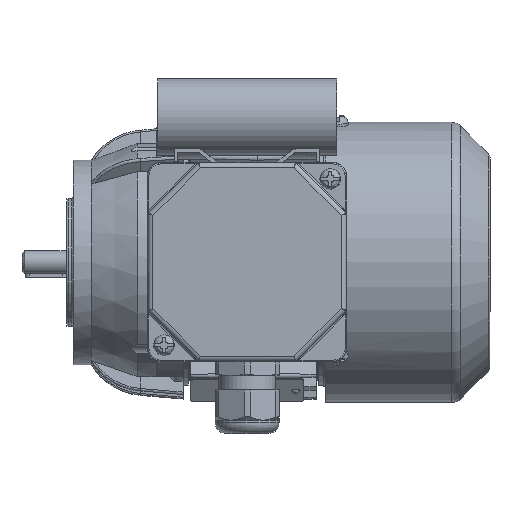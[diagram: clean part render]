
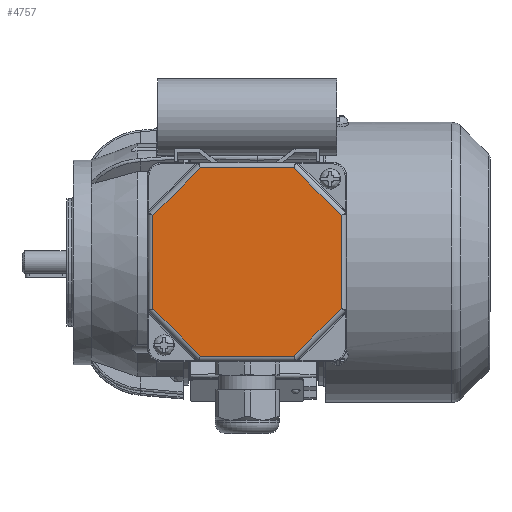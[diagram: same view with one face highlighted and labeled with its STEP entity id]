
A CAD part, top view. The second image highlights one B-rep face of the part: STEP entity #4757.
In plain terms, the highlighted planar face has unit normal (0, 0, 1).
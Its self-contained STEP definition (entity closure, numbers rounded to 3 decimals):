
#4757 = ADVANCED_FACE( '', ( #9658 ), #9659, .T. );
#9658 = FACE_OUTER_BOUND( '', #19650, .T. );
#9659 = PLANE( '', #19651 );
#19650 = EDGE_LOOP( '', ( #33543, #33544, #33545, #33546, #33547, #33548, #33549, #33550 ) );
#19651 = AXIS2_PLACEMENT_3D( '', #33551, #33552, #33553 );
#33543 = ORIENTED_EDGE( '', *, *, #39626, .T. );
#33544 = ORIENTED_EDGE( '', *, *, #37368, .T. );
#33545 = ORIENTED_EDGE( '', *, *, #39441, .T. );
#33546 = ORIENTED_EDGE( '', *, *, #39581, .T. );
#33547 = ORIENTED_EDGE( '', *, *, #41657, .T. );
#33548 = ORIENTED_EDGE( '', *, *, #39762, .T. );
#33549 = ORIENTED_EDGE( '', *, *, #41244, .T. );
#33550 = ORIENTED_EDGE( '', *, *, #41658, .T. );
#33551 = CARTESIAN_POINT( '', ( -39., 39., 12. ) );
#33552 = DIRECTION( '', ( 0., 0., 1. ) );
#33553 = DIRECTION( '', ( 1., 0., 0. ) );
#37368 = EDGE_CURVE( '', #44489, #44490, #44491, .T. );
#39441 = EDGE_CURVE( '', #44490, #47822, #47823, .F. );
#39581 = EDGE_CURVE( '', #47822, #46705, #48030, .T. );
#39626 = EDGE_CURVE( '', #43196, #44489, #48097, .F. );
#39762 = EDGE_CURVE( '', #48296, #45002, #48297, .T. );
#41244 = EDGE_CURVE( '', #45002, #47012, #50284, .F. );
#41657 = EDGE_CURVE( '', #46705, #48296, #50754, .F. );
#41658 = EDGE_CURVE( '', #47012, #43196, #50755, .T. );
#43196 = VERTEX_POINT( '', #51825 );
#44489 = VERTEX_POINT( '', #54481 );
#44490 = VERTEX_POINT( '', #54482 );
#44491 = LINE( '', #54483, #54484 );
#45002 = VERTEX_POINT( '', #55466 );
#46705 = VERTEX_POINT( '', #58689 );
#47012 = VERTEX_POINT( '', #59263 );
#47822 = VERTEX_POINT( '', #60707 );
#47823 = LINE( '', #60708, #60709 );
#48030 = LINE( '', #61228, #61229 );
#48097 = LINE( '', #61336, #61337 );
#48296 = VERTEX_POINT( '', #61969 );
#48297 = LINE( '', #61970, #61971 );
#50284 = LINE( '', #66183, #66184 );
#50754 = LINE( '', #66987, #66988 );
#50755 = LINE( '', #66989, #66990 );
#51825 = CARTESIAN_POINT( '', ( 36.825, -18.255, 12. ) );
#54481 = CARTESIAN_POINT( '', ( 36.825, 18.255, 12. ) );
#54482 = CARTESIAN_POINT( '', ( 18.255, 36.825, 12. ) );
#54483 = CARTESIAN_POINT( '', ( 17.679, 37.401, 12. ) );
#54484 = VECTOR( '', #69231, 1000. );
#55466 = CARTESIAN_POINT( '', ( -18.255, -36.825, 12. ) );
#58689 = CARTESIAN_POINT( '', ( -36.825, 18.255, 12. ) );
#59263 = CARTESIAN_POINT( '', ( 18.255, -36.825, 12. ) );
#60707 = CARTESIAN_POINT( '', ( -18.255, 36.825, 12. ) );
#60708 = CARTESIAN_POINT( '', ( -19.069, 36.825, 12. ) );
#60709 = VECTOR( '', #71762, 1000. );
#61228 = CARTESIAN_POINT( '', ( -37.401, 17.679, 12. ) );
#61229 = VECTOR( '', #71932, 1000. );
#61336 = CARTESIAN_POINT( '', ( 36.825, 19.069, 12. ) );
#61337 = VECTOR( '', #71987, 1000. );
#61969 = CARTESIAN_POINT( '', ( -36.825, -18.255, 12. ) );
#61970 = CARTESIAN_POINT( '', ( -17.679, -37.401, 12. ) );
#61971 = VECTOR( '', #72164, 1000. );
#66183 = CARTESIAN_POINT( '', ( 19.069, -36.825, 12. ) );
#66184 = VECTOR( '', #73860, 1000. );
#66987 = CARTESIAN_POINT( '', ( -36.825, -19.069, 12. ) );
#66988 = VECTOR( '', #74305, 1000. );
#66989 = CARTESIAN_POINT( '', ( 37.401, -17.679, 12. ) );
#66990 = VECTOR( '', #74306, 1000. );
#69231 = DIRECTION( '', ( -0.707, 0.707, 0. ) );
#71762 = DIRECTION( '', ( 1., 0., 0. ) );
#71932 = DIRECTION( '', ( -0.707, -0.707, 0. ) );
#71987 = DIRECTION( '', ( 0., -1., 0. ) );
#72164 = DIRECTION( '', ( 0.707, -0.707, 0. ) );
#73860 = DIRECTION( '', ( -1., 0., 0. ) );
#74305 = DIRECTION( '', ( 0., 1., 0. ) );
#74306 = DIRECTION( '', ( 0.707, 0.707, 0. ) );
